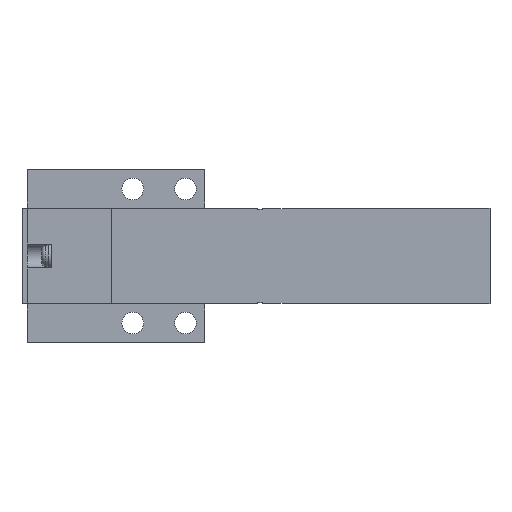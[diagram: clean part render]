
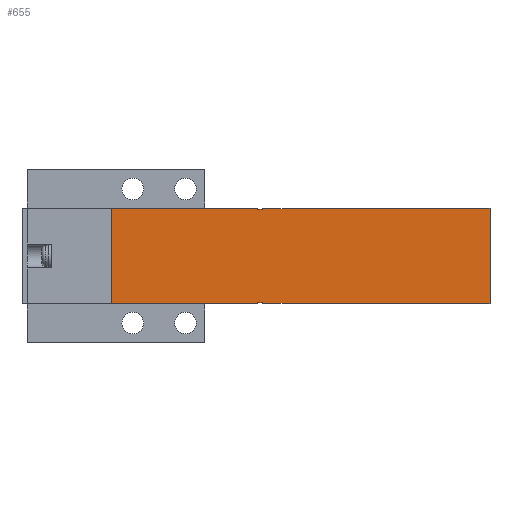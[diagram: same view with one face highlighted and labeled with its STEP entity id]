
A CAD part, front view. The second image highlights one B-rep face of the part: STEP entity #655.
In plain terms, the highlighted planar face has unit normal (0, -1, 0).
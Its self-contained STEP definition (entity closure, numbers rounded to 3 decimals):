
#655=ADVANCED_FACE('',(#1417),#1418,.F.);
#1417=FACE_OUTER_BOUND('',#2265,.T.);
#1418=PLANE('',#2266);
#2265=EDGE_LOOP('',(#5097,#5098,#5099,#5100,#5101,#5102,#5103,#5104,#5105,#5106,#5107,#5108,#5109,#5110,#5111,#5112,#5113,#5114,#5115,#5116,#5117,#5118,#5119,#5120));
#2266=AXIS2_PLACEMENT_3D('',#5121,#5122,#5123);
#5097=ORIENTED_EDGE('',*,*,#6203,.F.);
#5098=ORIENTED_EDGE('',*,*,#6362,.T.);
#5099=ORIENTED_EDGE('',*,*,#6316,.T.);
#5100=ORIENTED_EDGE('',*,*,#6329,.F.);
#5101=ORIENTED_EDGE('',*,*,#6241,.F.);
#5102=ORIENTED_EDGE('',*,*,#6197,.T.);
#5103=ORIENTED_EDGE('',*,*,#6327,.F.);
#5104=ORIENTED_EDGE('',*,*,#6389,.T.);
#5105=ORIENTED_EDGE('',*,*,#6174,.F.);
#5106=ORIENTED_EDGE('',*,*,#6402,.T.);
#5107=ORIENTED_EDGE('',*,*,#6428,.T.);
#5108=ORIENTED_EDGE('',*,*,#6166,.T.);
#5109=ORIENTED_EDGE('',*,*,#6350,.T.);
#5110=ORIENTED_EDGE('',*,*,#6258,.F.);
#5111=ORIENTED_EDGE('',*,*,#6421,.T.);
#5112=ORIENTED_EDGE('',*,*,#6330,.F.);
#5113=ORIENTED_EDGE('',*,*,#6294,.T.);
#5114=ORIENTED_EDGE('',*,*,#6361,.T.);
#5115=ORIENTED_EDGE('',*,*,#6429,.T.);
#5116=ORIENTED_EDGE('',*,*,#6247,.T.);
#5117=ORIENTED_EDGE('',*,*,#6336,.T.);
#5118=ORIENTED_EDGE('',*,*,#6378,.F.);
#5119=ORIENTED_EDGE('',*,*,#6346,.F.);
#5120=ORIENTED_EDGE('',*,*,#6430,.F.);
#5121=CARTESIAN_POINT('',(18.6,0.0,10.0));
#5122=DIRECTION('',(-0.0,1.0,0.0));
#5123=DIRECTION('',(1.0,0.0,0.0));
#6166=EDGE_CURVE('',#7593,#7591,#7594,.T.);
#6174=EDGE_CURVE('',#7606,#7608,#7609,.T.);
#6197=EDGE_CURVE('',#7653,#7651,#7654,.T.);
#6203=EDGE_CURVE('',#7661,#7664,#7665,.T.);
#6241=EDGE_CURVE('',#7653,#7732,#7733,.T.);
#6247=EDGE_CURVE('',#7741,#7739,#7742,.T.);
#6258=EDGE_CURVE('',#7758,#7760,#7761,.T.);
#6294=EDGE_CURVE('',#7820,#7822,#7824,.T.);
#6316=EDGE_CURVE('',#7857,#7859,#7861,.T.);
#6327=EDGE_CURVE('',#7878,#7651,#7880,.T.);
#6329=EDGE_CURVE('',#7732,#7859,#7882,.T.);
#6330=EDGE_CURVE('',#7820,#7883,#7884,.T.);
#6336=EDGE_CURVE('',#7739,#7891,#7893,.T.);
#6346=EDGE_CURVE('',#7910,#7912,#7913,.T.);
#6350=EDGE_CURVE('',#7591,#7760,#7918,.T.);
#6361=EDGE_CURVE('',#7822,#7931,#7933,.T.);
#6362=EDGE_CURVE('',#7661,#7857,#7934,.T.);
#6378=EDGE_CURVE('',#7912,#7891,#7959,.T.);
#6389=EDGE_CURVE('',#7878,#7608,#7975,.T.);
#6402=EDGE_CURVE('',#7606,#7991,#7993,.T.);
#6421=EDGE_CURVE('',#7758,#7883,#8014,.T.);
#6428=EDGE_CURVE('',#7991,#7593,#8022,.T.);
#6429=EDGE_CURVE('',#7931,#7741,#8023,.T.);
#6430=EDGE_CURVE('',#7664,#7910,#8024,.T.);
#7591=VERTEX_POINT('',#9899);
#7593=VERTEX_POINT('',#9902);
#7594=LINE('',#9903,#9904);
#7606=VERTEX_POINT('',#9921);
#7608=VERTEX_POINT('',#9924);
#7609=LINE('',#9925,#9926);
#7651=VERTEX_POINT('',#9986);
#7653=VERTEX_POINT('',#9989);
#7654=LINE('',#9990,#9991);
#7661=VERTEX_POINT('',#10002);
#7664=VERTEX_POINT('',#10006);
#7665=LINE('',#10007,#10008);
#7732=VERTEX_POINT('',#10110);
#7733=LINE('',#10111,#10112);
#7739=VERTEX_POINT('',#10122);
#7741=VERTEX_POINT('',#10125);
#7742=LINE('',#10126,#10127);
#7758=VERTEX_POINT('',#10151);
#7760=VERTEX_POINT('',#10154);
#7761=LINE('',#10155,#10156);
#7820=VERTEX_POINT('',#10245);
#7822=VERTEX_POINT('',#10248);
#7824=LINE('',#10251,#10252);
#7857=VERTEX_POINT('',#10328);
#7859=VERTEX_POINT('',#10331);
#7861=LINE('',#10334,#10335);
#7878=VERTEX_POINT('',#10361);
#7880=LINE('',#10364,#10365);
#7882=LINE('',#10368,#10369);
#7883=VERTEX_POINT('',#10370);
#7884=LINE('',#10371,#10372);
#7891=VERTEX_POINT('',#10383);
#7893=LINE('',#10386,#10387);
#7910=VERTEX_POINT('',#10408);
#7912=VERTEX_POINT('',#10411);
#7913=LINE('',#10412,#10413);
#7918=LINE('',#10421,#10422);
#7931=VERTEX_POINT('',#10444);
#7933=LINE('',#10447,#10448);
#7934=LINE('',#10449,#10450);
#7959=LINE('',#10487,#10488);
#7975=LINE('',#10513,#10514);
#7991=VERTEX_POINT('',#10540);
#7993=LINE('',#10543,#10544);
#8014=LINE('',#10603,#10604);
#8022=LINE('',#10617,#10618);
#8023=LINE('',#10619,#10620);
#8024=LINE('',#10621,#10622);
#9899=CARTESIAN_POINT('',(35.1,0.0,-10.0));
#9902=CARTESIAN_POINT('',(35.1,0.0,-9.9));
#9903=CARTESIAN_POINT('',(35.1,0.0,-9.9));
#9904=VECTOR('',#11641,1.0);
#9921=CARTESIAN_POINT('',(18.6,0.0,9.9));
#9924=CARTESIAN_POINT('',(35.1,0.0,9.9));
#9925=CARTESIAN_POINT('',(18.6,0.0,9.9));
#9926=VECTOR('',#11651,1.0);
#9986=CARTESIAN_POINT('',(44.1,0.0,10.0));
#9989=CARTESIAN_POINT('',(44.1,0.0,9.9));
#9990=CARTESIAN_POINT('',(44.1,0.0,9.9));
#9991=VECTOR('',#11680,1.0);
#10002=CARTESIAN_POINT('',(50.1,0.0,9.9));
#10006=CARTESIAN_POINT('',(55.1,0.0,9.9));
#10007=CARTESIAN_POINT('',(44.1,0.0,9.9));
#10008=VECTOR('',#11686,1.0);
#10110=CARTESIAN_POINT('',(49.1,0.0,9.9));
#10111=CARTESIAN_POINT('',(44.1,0.0,9.9));
#10112=VECTOR('',#11728,1.0);
#10122=CARTESIAN_POINT('',(55.1,0.0,-10.0));
#10125=CARTESIAN_POINT('',(55.1,0.0,-9.9));
#10126=CARTESIAN_POINT('',(55.1,0.0,-9.9));
#10127=VECTOR('',#11734,1.0);
#10151=CARTESIAN_POINT('',(44.1,0.0,-9.9));
#10154=CARTESIAN_POINT('',(44.1,0.0,-10.0));
#10155=CARTESIAN_POINT('',(44.1,0.0,-9.9));
#10156=VECTOR('',#11747,1.0);
#10245=CARTESIAN_POINT('',(49.1,0.0,-9.8));
#10248=CARTESIAN_POINT('',(50.1,0.0,-9.8));
#10251=CARTESIAN_POINT('',(18.6,0.0,-9.8));
#10252=VECTOR('',#11789,1.0);
#10328=CARTESIAN_POINT('',(50.1,0.0,9.8));
#10331=CARTESIAN_POINT('',(49.1,0.0,9.8));
#10334=CARTESIAN_POINT('',(18.6,0.0,9.8));
#10335=VECTOR('',#11814,1.0);
#10361=CARTESIAN_POINT('',(35.1,0.0,10.0));
#10364=CARTESIAN_POINT('',(18.6,0.0,10.0));
#10365=VECTOR('',#11825,1.0);
#10368=CARTESIAN_POINT('',(49.1,0.0,10.0));
#10369=VECTOR('',#11827,1.0);
#10370=CARTESIAN_POINT('',(49.1,0.0,-9.9));
#10371=CARTESIAN_POINT('',(49.1,0.0,10.0));
#10372=VECTOR('',#11828,1.0);
#10383=CARTESIAN_POINT('',(97.6,0.0,-10.0));
#10386=CARTESIAN_POINT('',(18.6,0.0,-10.0));
#10387=VECTOR('',#11834,1.0);
#10408=CARTESIAN_POINT('',(55.1,0.0,10.0));
#10411=CARTESIAN_POINT('',(97.6,0.0,10.0));
#10412=CARTESIAN_POINT('',(18.6,0.0,10.0));
#10413=VECTOR('',#11852,1.0);
#10421=CARTESIAN_POINT('',(18.6,0.0,-10.0));
#10422=VECTOR('',#11856,1.0);
#10444=CARTESIAN_POINT('',(50.1,0.0,-9.9));
#10447=CARTESIAN_POINT('',(50.1,0.0,10.0));
#10448=VECTOR('',#11867,1.0);
#10449=CARTESIAN_POINT('',(50.1,0.0,10.0));
#10450=VECTOR('',#11868,1.0);
#10487=CARTESIAN_POINT('',(97.6,0.0,10.0));
#10488=VECTOR('',#11890,1.0);
#10513=CARTESIAN_POINT('',(35.1,0.0,10.1));
#10514=VECTOR('',#11903,1.0);
#10540=CARTESIAN_POINT('',(18.6,0.0,-9.9));
#10543=CARTESIAN_POINT('',(18.6,0.0,10.0));
#10544=VECTOR('',#11918,1.0);
#10603=CARTESIAN_POINT('',(44.1,0.0,-9.9));
#10604=VECTOR('',#11940,1.0);
#10617=CARTESIAN_POINT('',(18.6,0.0,-9.9));
#10618=VECTOR('',#11949,1.0);
#10619=CARTESIAN_POINT('',(44.1,0.0,-9.9));
#10620=VECTOR('',#11950,1.0);
#10621=CARTESIAN_POINT('',(55.1,0.0,9.9));
#10622=VECTOR('',#11951,1.0);
#11641=DIRECTION('',(0.0,0.0,-1.0));
#11651=DIRECTION('',(1.0,0.0,0.0));
#11680=DIRECTION('',(0.0,0.0,1.0));
#11686=DIRECTION('',(1.0,0.0,0.0));
#11728=DIRECTION('',(1.0,0.0,0.0));
#11734=DIRECTION('',(0.0,0.0,-1.0));
#11747=DIRECTION('',(0.0,0.0,-1.0));
#11789=DIRECTION('',(1.0,0.0,0.0));
#11814=DIRECTION('',(-1.0,0.0,0.0));
#11825=DIRECTION('',(1.0,0.0,0.0));
#11827=DIRECTION('',(0.0,0.0,-1.0));
#11828=DIRECTION('',(0.0,0.0,-1.0));
#11834=DIRECTION('',(1.0,0.0,0.0));
#11852=DIRECTION('',(1.0,0.0,0.0));
#11856=DIRECTION('',(1.0,0.0,0.0));
#11867=DIRECTION('',(0.0,0.0,-1.0));
#11868=DIRECTION('',(0.0,0.0,-1.0));
#11890=DIRECTION('',(0.0,0.0,-1.0));
#11903=DIRECTION('',(0.0,0.0,-1.0));
#11918=DIRECTION('',(0.0,0.0,-1.0));
#11940=DIRECTION('',(1.0,0.0,0.0));
#11949=DIRECTION('',(1.0,0.0,0.0));
#11950=DIRECTION('',(1.0,0.0,0.0));
#11951=DIRECTION('',(0.0,0.0,1.0));
